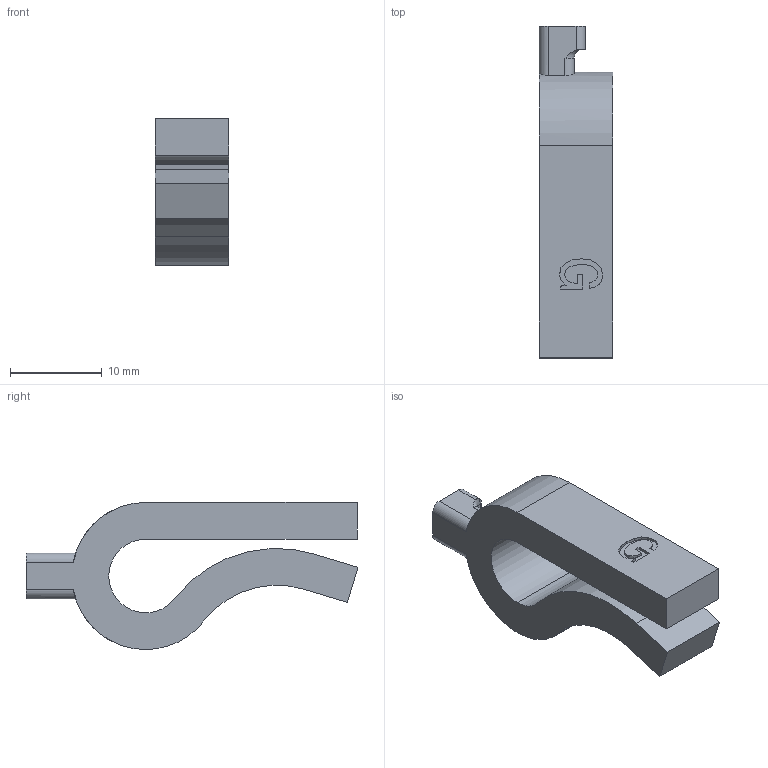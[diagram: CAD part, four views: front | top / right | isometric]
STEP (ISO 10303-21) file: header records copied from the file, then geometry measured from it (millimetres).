
FILE_DESCRIPTION(('CATIA V5 STEP Exchange'),'2;1');
FILE_NAME('C:\Users\FBAERT\Documents\Vis Casque\ClipsG_v2.stp','2020-04-09T16:03:57+00:00',('none'),('none'),'CATIA Version 5 Release 20 GA (IN-10)','CATIA V5 STEP AP203','none');
FILE_SCHEMA(('CONFIG_CONTROL_DESIGN'));
Length unit declared in the file: millimetre
Products named in the file (1): ClipsG
Bounding box: 8 x 36.09 x 16 mm (x, y, z)
Volume: 2245.1 mm3; surface area: 1774.1 mm2
Topology: 1 solids, 1 shells, 70 faces, 199 edges, 132 vertices
Faces by surface type: plane 55, cylinder 13, torus 2
Entity records: 2300 total; most frequent: CARTESIAN_POINT 451, ORIENTED_EDGE 398, DIRECTION 330, EDGE_CURVE 199, VECTOR 165, LINE 165, VERTEX_POINT 132, AXIS2_PLACEMENT_3D 96
